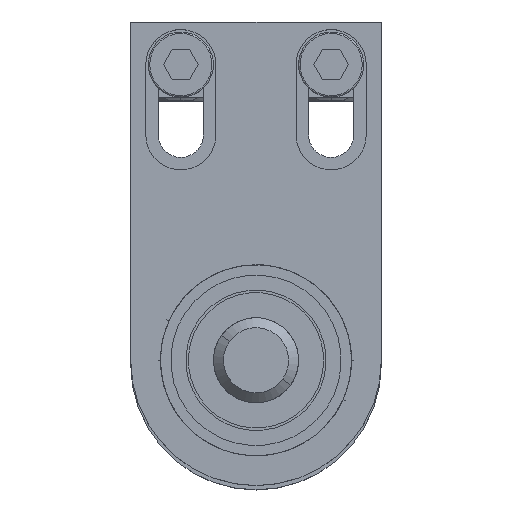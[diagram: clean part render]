
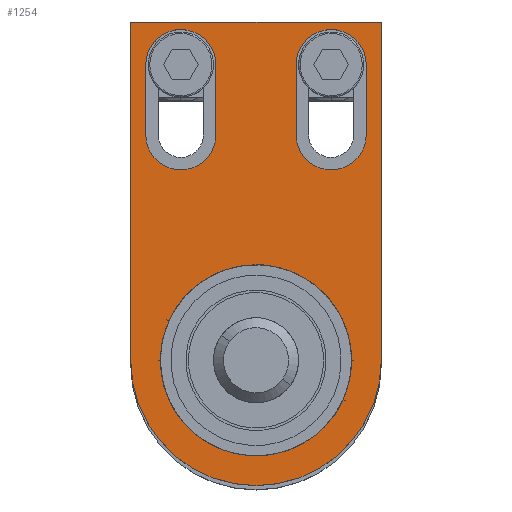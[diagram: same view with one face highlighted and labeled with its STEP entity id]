
A CAD part, top view. The second image highlights one B-rep face of the part: STEP entity #1254.
In plain terms, the highlighted planar face has unit normal (0, 0, 1).
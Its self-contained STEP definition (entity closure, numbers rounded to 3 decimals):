
#17 = VECTOR ( 'NONE', #2732, 1000. ) ;
#52 = LINE ( 'NONE', #1538, #4548 ) ;
#54 = CARTESIAN_POINT ( 'NONE',  ( 25., 0., 6. ) ) ;
#149 = ORIENTED_EDGE ( 'NONE', *, *, #455, .F. ) ;
#188 = ORIENTED_EDGE ( 'NONE', *, *, #4653, .F. ) ;
#193 = DIRECTION ( 'NONE',  ( 0., 0., 1. ) ) ;
#234 = CARTESIAN_POINT ( 'NONE',  ( 0., 0., 6. ) ) ;
#294 = DIRECTION ( 'NONE',  ( 1., 0., 0. ) ) ;
#298 = DIRECTION ( 'NONE',  ( 1., 0., 0. ) ) ;
#314 = EDGE_CURVE ( 'NONE', #5364, #4551, #52, .T. ) ;
#353 = CARTESIAN_POINT ( 'NONE',  ( -25., 0., 6. ) ) ;
#411 = CARTESIAN_POINT ( 'NONE',  ( 25., 67.5, 6. ) ) ;
#419 = FACE_BOUND ( 'NONE', #4983, .T. ) ;
#432 = ORIENTED_EDGE ( 'NONE', *, *, #3024, .F. ) ;
#434 = CARTESIAN_POINT ( 'NONE',  ( -22., 59., 6. ) ) ;
#455 = EDGE_CURVE ( 'NONE', #5872, #2304, #3761, .T. ) ;
#478 = AXIS2_PLACEMENT_3D ( 'NONE', #5709, #193, #1547 ) ;
#513 = DIRECTION ( 'NONE',  ( 0., 0., 1. ) ) ;
#543 = LINE ( 'NONE', #5015, #3958 ) ;
#679 = CARTESIAN_POINT ( 'NONE',  ( 22., 59., 6. ) ) ;
#766 = EDGE_CURVE ( 'NONE', #1134, #5400, #3244, .T. ) ;
#787 = ORIENTED_EDGE ( 'NONE', *, *, #4183, .F. ) ;
#835 = DIRECTION ( 'NONE',  ( 0., 0., 1. ) ) ;
#844 = PLANE ( 'NONE',  #2150 ) ;
#858 = ORIENTED_EDGE ( 'NONE', *, *, #924, .F. ) ;
#879 = CARTESIAN_POINT ( 'NONE',  ( 8., 59., 6. ) ) ;
#924 = EDGE_CURVE ( 'NONE', #3205, #1733, #2298, .T. ) ;
#936 = VERTEX_POINT ( 'NONE', #3238 ) ;
#938 = CARTESIAN_POINT ( 'NONE',  ( 0., 0., 6. ) ) ;
#953 = CARTESIAN_POINT ( 'NONE',  ( -25., 67.5, 6. ) ) ;
#1122 = VERTEX_POINT ( 'NONE', #353 ) ;
#1134 = VERTEX_POINT ( 'NONE', #5013 ) ;
#1254 = ADVANCED_FACE ( 'NONE', ( #3681, #3313, #419, #4773 ), #844, .T. ) ;
#1278 = EDGE_CURVE ( 'NONE', #5392, #1134, #4622, .T. ) ;
#1297 = VECTOR ( 'NONE', #2575, 1000. ) ;
#1303 = CARTESIAN_POINT ( 'NONE',  ( -22., 45., 6. ) ) ;
#1356 = CIRCLE ( 'NONE', #2920, 25. ) ;
#1380 = CARTESIAN_POINT ( 'NONE',  ( -15., 59., 6. ) ) ;
#1420 = CIRCLE ( 'NONE', #1540, 7. ) ;
#1462 = VERTEX_POINT ( 'NONE', #54 ) ;
#1538 = CARTESIAN_POINT ( 'NONE',  ( 25., 67.5, 6. ) ) ;
#1540 = AXIS2_PLACEMENT_3D ( 'NONE', #3076, #3532, #294 ) ;
#1547 = DIRECTION ( 'NONE',  ( 1., 0., 0. ) ) ;
#1689 = CARTESIAN_POINT ( 'NONE',  ( 0., 0., 6. ) ) ;
#1733 = VERTEX_POINT ( 'NONE', #3938 ) ;
#1760 = CARTESIAN_POINT ( 'NONE',  ( 22., 59., 6. ) ) ;
#1828 = DIRECTION ( 'NONE',  ( 1., 0., 0. ) ) ;
#1932 = ORIENTED_EDGE ( 'NONE', *, *, #766, .F. ) ;
#1981 = CIRCLE ( 'NONE', #478, 7. ) ;
#2118 = EDGE_CURVE ( 'NONE', #1122, #1462, #1356, .T. ) ;
#2150 = AXIS2_PLACEMENT_3D ( 'NONE', #4154, #5049, #2720 ) ;
#2219 = DIRECTION ( 'NONE',  ( 0., -1., 0. ) ) ;
#2274 = CARTESIAN_POINT ( 'NONE',  ( -19.079, 0., 6. ) ) ;
#2298 = CIRCLE ( 'NONE', #4336, 19.079 ) ;
#2301 = CARTESIAN_POINT ( 'NONE',  ( 22., 45., 6. ) ) ;
#2304 = VERTEX_POINT ( 'NONE', #1760 ) ;
#2331 = VECTOR ( 'NONE', #5825, 1000. ) ;
#2452 = ORIENTED_EDGE ( 'NONE', *, *, #3565, .F. ) ;
#2546 = CARTESIAN_POINT ( 'NONE',  ( 25., 0., 6. ) ) ;
#2574 = LINE ( 'NONE', #879, #5848 ) ;
#2575 = DIRECTION ( 'NONE',  ( 0., 1., 0. ) ) ;
#2598 = EDGE_LOOP ( 'NONE', ( #3341, #4495, #5371, #5295 ) ) ;
#2712 = EDGE_LOOP ( 'NONE', ( #4470, #2764, #2452, #1932 ) ) ;
#2720 = DIRECTION ( 'NONE',  ( 1., 0., 0. ) ) ;
#2725 = AXIS2_PLACEMENT_3D ( 'NONE', #5852, #835, #1828 ) ;
#2732 = DIRECTION ( 'NONE',  ( 0., 1., 0. ) ) ;
#2764 = ORIENTED_EDGE ( 'NONE', *, *, #4870, .F. ) ;
#2805 = VERTEX_POINT ( 'NONE', #4000 ) ;
#2814 = DIRECTION ( 'NONE',  ( 1., 0., 0. ) ) ;
#2864 = EDGE_CURVE ( 'NONE', #936, #5872, #1420, .T. ) ;
#2918 = LINE ( 'NONE', #2546, #2331 ) ;
#2920 = AXIS2_PLACEMENT_3D ( 'NONE', #1689, #3557, #298 ) ;
#2954 = AXIS2_PLACEMENT_3D ( 'NONE', #234, #5808, #3477 ) ;
#3024 = EDGE_CURVE ( 'NONE', #4809, #936, #2574, .T. ) ;
#3076 = CARTESIAN_POINT ( 'NONE',  ( 15., 45., 6. ) ) ;
#3154 = CARTESIAN_POINT ( 'NONE',  ( -8., 59., 6. ) ) ;
#3205 = VERTEX_POINT ( 'NONE', #2274 ) ;
#3238 = CARTESIAN_POINT ( 'NONE',  ( 8., 45., 6. ) ) ;
#3244 = LINE ( 'NONE', #434, #5278 ) ;
#3313 = FACE_BOUND ( 'NONE', #2712, .T. ) ;
#3341 = ORIENTED_EDGE ( 'NONE', *, *, #2118, .T. ) ;
#3477 = DIRECTION ( 'NONE',  ( 1., 0., 0. ) ) ;
#3532 = DIRECTION ( 'NONE',  ( 0., 0., 1. ) ) ;
#3557 = DIRECTION ( 'NONE',  ( 0., 0., 1. ) ) ;
#3565 = EDGE_CURVE ( 'NONE', #5400, #2805, #4168, .T. ) ;
#3629 = DIRECTION ( 'NONE',  ( 0., -1., 0. ) ) ;
#3647 = DIRECTION ( 'NONE',  ( 0., 0., 1. ) ) ;
#3681 = FACE_BOUND ( 'NONE', #4884, .T. ) ;
#3761 = LINE ( 'NONE', #679, #1297 ) ;
#3938 = CARTESIAN_POINT ( 'NONE',  ( 19.079, 0., 6. ) ) ;
#3958 = VECTOR ( 'NONE', #2219, 1000. ) ;
#4000 = CARTESIAN_POINT ( 'NONE',  ( -8., 45., 6. ) ) ;
#4154 = CARTESIAN_POINT ( 'NONE',  ( 0., 0., 6. ) ) ;
#4168 = CIRCLE ( 'NONE', #2725, 7. ) ;
#4183 = EDGE_CURVE ( 'NONE', #1733, #3205, #5609, .T. ) ;
#4316 = EDGE_CURVE ( 'NONE', #4551, #1122, #543, .T. ) ;
#4336 = AXIS2_PLACEMENT_3D ( 'NONE', #938, #513, #2814 ) ;
#4470 = ORIENTED_EDGE ( 'NONE', *, *, #1278, .F. ) ;
#4495 = ORIENTED_EDGE ( 'NONE', *, *, #5234, .T. ) ;
#4548 = VECTOR ( 'NONE', #5635, 1000. ) ;
#4551 = VERTEX_POINT ( 'NONE', #953 ) ;
#4622 = CIRCLE ( 'NONE', #5451, 7. ) ;
#4653 = EDGE_CURVE ( 'NONE', #2304, #4809, #1981, .T. ) ;
#4773 = FACE_OUTER_BOUND ( 'NONE', #2598, .T. ) ;
#4809 = VERTEX_POINT ( 'NONE', #5799 ) ;
#4870 = EDGE_CURVE ( 'NONE', #2805, #5392, #5032, .T. ) ;
#4884 = EDGE_LOOP ( 'NONE', ( #188, #149, #5070, #432 ) ) ;
#4974 = DIRECTION ( 'NONE',  ( 0., -1., 0. ) ) ;
#4983 = EDGE_LOOP ( 'NONE', ( #858, #787 ) ) ;
#5013 = CARTESIAN_POINT ( 'NONE',  ( -22., 59., 6. ) ) ;
#5015 = CARTESIAN_POINT ( 'NONE',  ( -25., 0., 6. ) ) ;
#5032 = LINE ( 'NONE', #5473, #17 ) ;
#5049 = DIRECTION ( 'NONE',  ( 0., 0., 1. ) ) ;
#5070 = ORIENTED_EDGE ( 'NONE', *, *, #2864, .F. ) ;
#5234 = EDGE_CURVE ( 'NONE', #1462, #5364, #2918, .T. ) ;
#5278 = VECTOR ( 'NONE', #3629, 1000. ) ;
#5295 = ORIENTED_EDGE ( 'NONE', *, *, #4316, .T. ) ;
#5364 = VERTEX_POINT ( 'NONE', #411 ) ;
#5371 = ORIENTED_EDGE ( 'NONE', *, *, #314, .T. ) ;
#5392 = VERTEX_POINT ( 'NONE', #3154 ) ;
#5400 = VERTEX_POINT ( 'NONE', #1303 ) ;
#5451 = AXIS2_PLACEMENT_3D ( 'NONE', #1380, #3647, #5544 ) ;
#5473 = CARTESIAN_POINT ( 'NONE',  ( -8., 59., 6. ) ) ;
#5544 = DIRECTION ( 'NONE',  ( 1., 0., 0. ) ) ;
#5609 = CIRCLE ( 'NONE', #2954, 19.079 ) ;
#5635 = DIRECTION ( 'NONE',  ( -1., 0., 0. ) ) ;
#5709 = CARTESIAN_POINT ( 'NONE',  ( 15., 59., 6. ) ) ;
#5799 = CARTESIAN_POINT ( 'NONE',  ( 8., 59., 6. ) ) ;
#5808 = DIRECTION ( 'NONE',  ( 0., 0., 1. ) ) ;
#5825 = DIRECTION ( 'NONE',  ( 0., 1., 0. ) ) ;
#5848 = VECTOR ( 'NONE', #4974, 1000. ) ;
#5852 = CARTESIAN_POINT ( 'NONE',  ( -15., 45., 6. ) ) ;
#5872 = VERTEX_POINT ( 'NONE', #2301 ) ;
